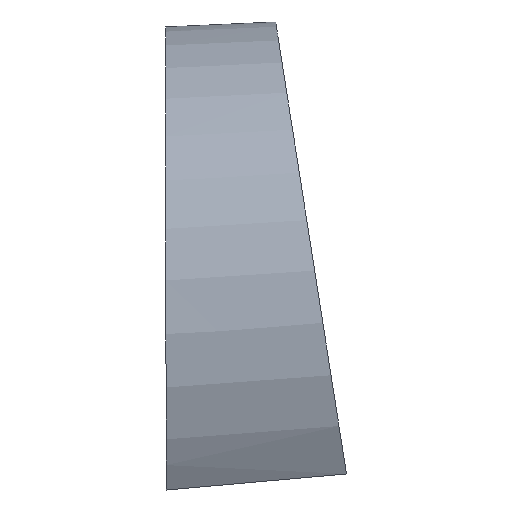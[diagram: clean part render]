
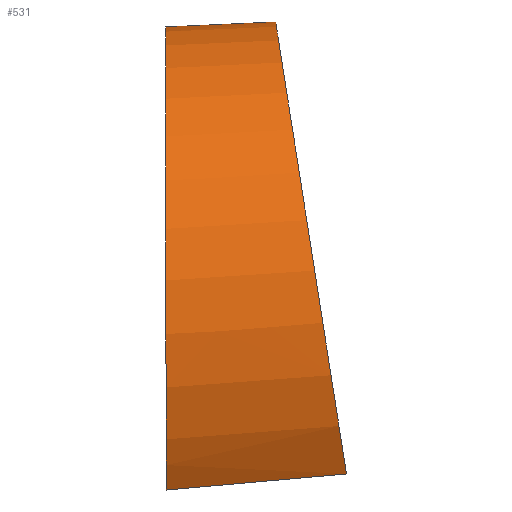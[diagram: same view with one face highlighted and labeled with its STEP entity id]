
A CAD part, top view. The second image highlights one B-rep face of the part: STEP entity #531.
In plain terms, the highlighted free-form (B-spline) face has degree [3, 3] with [13, 4] control points.
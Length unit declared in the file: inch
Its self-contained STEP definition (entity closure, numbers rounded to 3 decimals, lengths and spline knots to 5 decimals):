
#13 = CARTESIAN_POINT ( 'NONE',  ( 0.03081, -84.96533, 12.82801 ) ) ;
#26 = CARTESIAN_POINT ( 'NONE',  ( 13.37509, -84.332, 12.67444 ) ) ;
#33 = CARTESIAN_POINT ( 'NONE',  ( 0.07063, -113.5282, 36.74441 ) ) ;
#42 = CARTESIAN_POINT ( 'NONE',  ( 4.47891, -84.75422, 12.77683 ) ) ;
#51 = CARTESIAN_POINT ( 'NONE',  ( 0.02859, -83.25082, 0.0638 ) ) ;
#77 = CARTESIAN_POINT ( 'NONE',  ( 0.10716, -138.31905, 31.85713 ) ) ;
#78 = CARTESIAN_POINT ( 'NONE',  ( 17.73856, -112.21158, 36.30642 ) ) ;
#95 = CARTESIAN_POINT ( 'NONE',  ( 13.81601, -131.55422, 34.79012 ) ) ;
#104 = CARTESIAN_POINT ( 'NONE',  ( 20.6746, -130.96293, 34.65132 ) ) ;
#145 = CARTESIAN_POINT ( 'NONE',  ( 0.06152, -107.20212, 35.04643 ) ) ;
#186 = CARTESIAN_POINT ( 'NONE',  ( 10.06041, -95.44856, 28.37818 ) ) ;
#195 = CARTESIAN_POINT ( 'NONE',  ( 0.06152, -107.20212, 35.04643 ) ) ;
#203 = CARTESIAN_POINT ( 'NONE',  ( 0.07063, -113.5282, 36.74441 ) ) ;
#205 = ORIENTED_EDGE ( 'NONE', *, *, #297, .T. ) ;
#210 = CARTESIAN_POINT ( 'NONE',  ( 0.08946, -126.408, 36.75515 ) ) ;
#218 = CARTESIAN_POINT ( 'NONE',  ( 16.77186, -106.03643, 34.6281 ) ) ;
#235 = CARTESIAN_POINT ( 'NONE',  ( 4.39016, -83.05339, 0.0638 ) ) ;
#264 = B_SPLINE_CURVE_WITH_KNOTS ( 'NONE', 3,
 ( #943, #476, #1576, #971 ),
 .UNSPECIFIED., .F., .F.,
 ( 4, 4 ),
 ( 0., 1. ),
 .UNSPECIFIED. ) ;
#293 = CARTESIAN_POINT ( 'NONE',  ( 5.05311, -95.74825, 28.49227 ) ) ;
#297 = EDGE_CURVE ( 'NONE', #944, #814, #1125, .T. ) ;
#311 = CARTESIAN_POINT ( 'NONE',  ( 15.91978, -100.59265, 31.4461 ) ) ;
#326 = CARTESIAN_POINT ( 'NONE',  ( 20.6746, -130.96293, 34.65132 ) ) ;
#338 = VERTEX_POINT ( 'NONE', #1027 ) ;
#346 = CARTESIAN_POINT ( 'NONE',  ( 8.75173, -82.85596, 0.06381 ) ) ;
#354 = CARTESIAN_POINT ( 'NONE',  ( 19.70713, -124.78462, 36.31813 ) ) ;
#356 = VERTEX_POINT ( 'NONE', #1400 ) ;
#363 = CARTESIAN_POINT ( 'NONE',  ( 0.02859, -83.25082, 0.0638 ) ) ;
#401 = CARTESIAN_POINT ( 'NONE',  ( 4.39074, -83.06453, 6.47777 ) ) ;
#429 = B_SPLINE_SURFACE_WITH_KNOTS ( 'NONE', 3, 3, ( 
 ( #51, #1385, #789, #1493 ),
 ( #549, #401, #533, #1408 ),
 ( #1135, #42, #902, #26 ),
 ( #1035, #527, #1501, #1525 ),
 ( #773, #1264, #659, #540 ),
 ( #1392, #293, #186, #781 ),
 ( #1274, #434, #1152, #311 ),
 ( #195, #942, #442, #218 ),
 ( #203, #1313, #686, #712 ),
 ( #467, #1059, #1204, #1187 ),
 ( #210, #1179, #1544, #354 ),
 ( #1210, #925, #95, #326 ),
 ( #1416, #592, #813, #702 ) ),
 .UNSPECIFIED., .F., .F., .F.,
 ( 4, 3, 3, 3, 4 ),
 ( 4, 4 ),
 ( 0., 0.25, 0.5, 0.75, 1. ),
 ( 0., 1. ),
 .UNSPECIFIED. ) ;
#434 = CARTESIAN_POINT ( 'NONE',  ( 5.34237, -101.28091, 31.69963 ) ) ;
#442 = CARTESIAN_POINT ( 'NONE',  ( 11.20175, -106.425, 34.76755 ) ) ;
#467 = CARTESIAN_POINT ( 'NONE',  ( 0.08004, -119.9681, 36.74978 ) ) ;
#476 = CARTESIAN_POINT ( 'NONE',  ( 7.24746, -137.68359, 31.73118 ) ) ;
#481 = B_SPLINE_CURVE_WITH_KNOTS ( 'NONE', 3,
 ( #1071, #104, #1098, #78, #1305, #492, #1570, #483, #954, #600 ),
 .UNSPECIFIED., .F., .F.,
 ( 4, 2, 2, 2, 4 ),
 ( 0., 0.25, 0.5, 0.75, 1. ),
 .UNSPECIFIED. ) ;
#483 = CARTESIAN_POINT ( 'NONE',  ( 13.37509, -84.332, 12.67444 ) ) ;
#492 = CARTESIAN_POINT ( 'NONE',  ( 15.0677, -95.14887, 28.26409 ) ) ;
#527 = CARTESIAN_POINT ( 'NONE',  ( 4.64595, -87.95307, 18.32893 ) ) ;
#531 = ADVANCED_FACE ( 'NONE', ( #1507 ), #429, .T. ) ;
#533 = CARTESIAN_POINT ( 'NONE',  ( 8.75288, -82.86705, 6.45195 ) ) ;
#540 = CARTESIAN_POINT ( 'NONE',  ( 14.36001, -90.62657, 23.68959 ) ) ;
#549 = CARTESIAN_POINT ( 'NONE',  ( 0.0286, -83.262, 6.50359 ) ) ;
#592 = CARTESIAN_POINT ( 'NONE',  ( 7.24746, -137.68359, 31.73118 ) ) ;
#593 = CARTESIAN_POINT ( 'NONE',  ( 13.1133, -82.65853, 0.06381 ) ) ;
#600 = CARTESIAN_POINT ( 'NONE',  ( 13.1133, -82.65853, 0.06381 ) ) ;
#626 = CARTESIAN_POINT ( 'NONE',  ( 0.02859, -83.25082, 0.0638 ) ) ;
#659 = CARTESIAN_POINT ( 'NONE',  ( 9.5865, -90.88925, 23.78531 ) ) ;
#686 = CARTESIAN_POINT ( 'NONE',  ( 11.84925, -112.65046, 36.45242 ) ) ;
#702 = CARTESIAN_POINT ( 'NONE',  ( 21.52805, -136.41262, 31.47929 ) ) ;
#712 = CARTESIAN_POINT ( 'NONE',  ( 17.73856, -112.21158, 36.30642 ) ) ;
#773 = CARTESIAN_POINT ( 'NONE',  ( 0.03948, -91.41459, 23.97673 ) ) ;
#781 = CARTESIAN_POINT ( 'NONE',  ( 15.0677, -95.14887, 28.26409 ) ) ;
#789 = CARTESIAN_POINT ( 'NONE',  ( 8.75173, -82.85596, 0.06381 ) ) ;
#797 = CARTESIAN_POINT ( 'NONE',  ( 0.09885, -132.73677, 35.06773 ) ) ;
#806 = ORIENTED_EDGE ( 'NONE', *, *, #1269, .T. ) ;
#813 = CARTESIAN_POINT ( 'NONE',  ( 14.38776, -137.04811, 31.60524 ) ) ;
#814 = VERTEX_POINT ( 'NONE', #77 ) ;
#842 = B_SPLINE_CURVE_WITH_KNOTS ( 'NONE', 3,
 ( #593, #346, #235, #363 ),
 .UNSPECIFIED., .F., .F.,
 ( 4, 4 ),
 ( 0., 1. ),
 .UNSPECIFIED. ) ;
#902 = CARTESIAN_POINT ( 'NONE',  ( 8.927, -84.54312, 12.72564 ) ) ;
#916 = CARTESIAN_POINT ( 'NONE',  ( 0.08946, -126.408, 36.75515 ) ) ;
#925 = CARTESIAN_POINT ( 'NONE',  ( 6.95743, -132.1455, 34.92892 ) ) ;
#934 = ORIENTED_EDGE ( 'NONE', *, *, #1267, .T. ) ;
#942 = CARTESIAN_POINT ( 'NONE',  ( 5.63164, -106.81357, 34.90699 ) ) ;
#943 = CARTESIAN_POINT ( 'NONE',  ( 0.10716, -138.31905, 31.85713 ) ) ;
#944 = VERTEX_POINT ( 'NONE', #1330 ) ;
#954 = CARTESIAN_POINT ( 'NONE',  ( 13.11503, -82.66958, 6.42612 ) ) ;
#971 = CARTESIAN_POINT ( 'NONE',  ( 21.52805, -136.41262, 31.47929 ) ) ;
#1027 = CARTESIAN_POINT ( 'NONE',  ( 13.1133, -82.65853, 0.06381 ) ) ;
#1035 = CARTESIAN_POINT ( 'NONE',  ( 0.03515, -88.18996, 18.40237 ) ) ;
#1059 = CARTESIAN_POINT ( 'NONE',  ( 6.29431, -119.47811, 36.60395 ) ) ;
#1071 = CARTESIAN_POINT ( 'NONE',  ( 21.52805, -136.41262, 31.47929 ) ) ;
#1098 = CARTESIAN_POINT ( 'NONE',  ( 19.70713, -124.78462, 36.31813 ) ) ;
#1119 = CARTESIAN_POINT ( 'NONE',  ( 0.0286, -83.262, 6.50359 ) ) ;
#1125 = B_SPLINE_CURVE_WITH_KNOTS ( 'NONE', 3,
 ( #626, #1119, #13, #1486, #1252, #145, #33, #916, #797, #1515 ),
 .UNSPECIFIED., .F., .F.,
 ( 4, 2, 2, 2, 4 ),
 ( 0., 0.25, 0.5, 0.75, 1. ),
 .UNSPECIFIED. ) ;
#1135 = CARTESIAN_POINT ( 'NONE',  ( 0.03081, -84.96533, 12.82801 ) ) ;
#1152 = CARTESIAN_POINT ( 'NONE',  ( 10.63108, -100.93678, 31.57287 ) ) ;
#1179 = CARTESIAN_POINT ( 'NONE',  ( 6.62868, -125.86688, 36.60948 ) ) ;
#1187 = CARTESIAN_POINT ( 'NONE',  ( 18.72284, -118.4981, 36.31228 ) ) ;
#1204 = CARTESIAN_POINT ( 'NONE',  ( 12.50858, -118.98811, 36.45811 ) ) ;
#1210 = CARTESIAN_POINT ( 'NONE',  ( 0.09885, -132.73677, 35.06773 ) ) ;
#1212 = ORIENTED_EDGE ( 'NONE', *, *, #1479, .T. ) ;
#1252 = CARTESIAN_POINT ( 'NONE',  ( 0.04581, -96.04793, 28.60634 ) ) ;
#1264 = CARTESIAN_POINT ( 'NONE',  ( 4.81299, -91.15192, 23.88102 ) ) ;
#1267 = EDGE_CURVE ( 'NONE', #356, #338, #481, .T. ) ;
#1269 = EDGE_CURVE ( 'NONE', #338, #944, #842, .T. ) ;
#1274 = CARTESIAN_POINT ( 'NONE',  ( 0.05367, -101.62503, 31.82639 ) ) ;
#1305 = CARTESIAN_POINT ( 'NONE',  ( 16.77186, -106.03643, 34.6281 ) ) ;
#1313 = CARTESIAN_POINT ( 'NONE',  ( 5.95994, -113.08934, 36.59842 ) ) ;
#1330 = CARTESIAN_POINT ( 'NONE',  ( 0.02859, -83.25082, 0.0638 ) ) ;
#1385 = CARTESIAN_POINT ( 'NONE',  ( 4.39016, -83.05339, 0.0638 ) ) ;
#1392 = CARTESIAN_POINT ( 'NONE',  ( 0.04581, -96.04793, 28.60634 ) ) ;
#1400 = CARTESIAN_POINT ( 'NONE',  ( 21.52805, -136.41262, 31.47929 ) ) ;
#1408 = CARTESIAN_POINT ( 'NONE',  ( 13.11503, -82.66958, 6.42612 ) ) ;
#1416 = CARTESIAN_POINT ( 'NONE',  ( 0.10716, -138.31905, 31.85713 ) ) ;
#1479 = EDGE_CURVE ( 'NONE', #814, #356, #264, .T. ) ;
#1486 = CARTESIAN_POINT ( 'NONE',  ( 0.03948, -91.41459, 23.97673 ) ) ;
#1493 = CARTESIAN_POINT ( 'NONE',  ( 13.1133, -82.65853, 0.06381 ) ) ;
#1501 = CARTESIAN_POINT ( 'NONE',  ( 9.25675, -87.71618, 18.25548 ) ) ;
#1507 = FACE_OUTER_BOUND ( 'NONE', #1571, .T. ) ;
#1515 = CARTESIAN_POINT ( 'NONE',  ( 0.10716, -138.31905, 31.85713 ) ) ;
#1525 = CARTESIAN_POINT ( 'NONE',  ( 13.86755, -87.47929, 18.18202 ) ) ;
#1544 = CARTESIAN_POINT ( 'NONE',  ( 13.1679, -125.32576, 36.46381 ) ) ;
#1570 = CARTESIAN_POINT ( 'NONE',  ( 14.36001, -90.62657, 23.68959 ) ) ;
#1571 = EDGE_LOOP ( 'NONE', ( #205, #1212, #934, #806 ) ) ;
#1576 = CARTESIAN_POINT ( 'NONE',  ( 14.38776, -137.04811, 31.60524 ) ) ;
